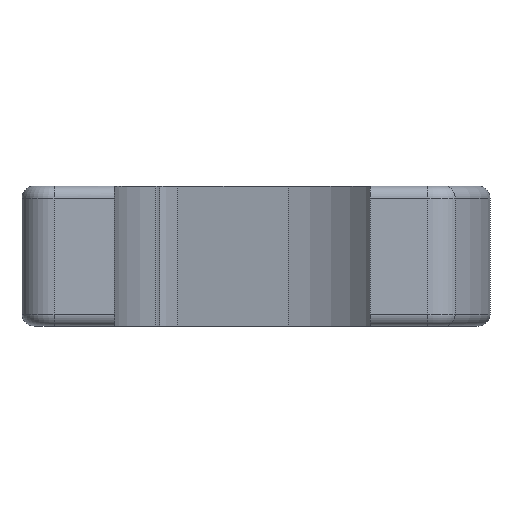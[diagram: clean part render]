
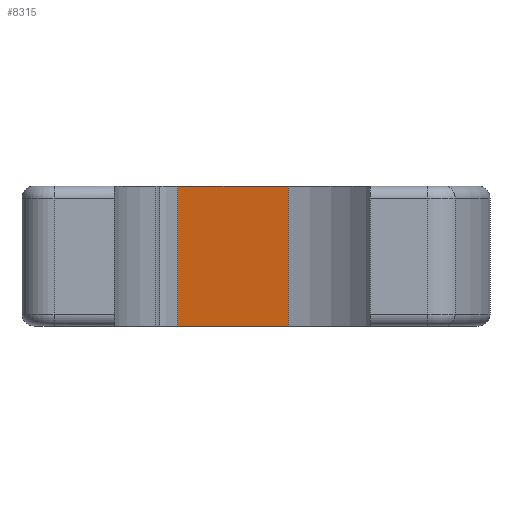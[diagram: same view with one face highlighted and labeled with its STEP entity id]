
A CAD part, front view. The second image highlights one B-rep face of the part: STEP entity #8315.
In plain terms, the highlighted planar face has unit normal (-0.169, -0.986, 0).
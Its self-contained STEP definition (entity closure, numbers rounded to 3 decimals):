
#37 = PLANE ( 'NONE',  #8831 ) ;
#173 = LINE ( 'NONE', #7271, #6984 ) ;
#808 = LINE ( 'NONE', #7925, #8467 ) ;
#1312 = ORIENTED_EDGE ( 'NONE', *, *, #1797, .T. ) ;
#1513 = CARTESIAN_POINT ( 'NONE',  ( -32.065, 28.11, 1.75 ) ) ;
#1684 = CARTESIAN_POINT ( 'NONE',  ( -32.065, 28.11, -1.75 ) ) ;
#1797 = EDGE_CURVE ( 'NONE', #10316, #2175, #5590, .T. ) ;
#2175 = VERTEX_POINT ( 'NONE', #8182 ) ;
#2611 = DIRECTION ( 'NONE',  ( -0.986, 0.169, 0. ) ) ;
#2700 = FACE_OUTER_BOUND ( 'NONE', #3636, .T. ) ;
#2997 = VERTEX_POINT ( 'NONE', #3740 ) ;
#3169 = DIRECTION ( 'NONE',  ( -0.986, 0.169, 0. ) ) ;
#3636 = EDGE_LOOP ( 'NONE', ( #1312, #10926, #9256, #10933 ) ) ;
#3740 = CARTESIAN_POINT ( 'NONE',  ( -34.825, 28.584, -1.75 ) ) ;
#5590 = LINE ( 'NONE', #7540, #7645 ) ;
#6057 = LINE ( 'NONE', #11173, #6785 ) ;
#6101 = VERTEX_POINT ( 'NONE', #1684 ) ;
#6102 = EDGE_CURVE ( 'NONE', #6101, #2997, #808, .T. ) ;
#6199 = DIRECTION ( 'NONE',  ( 0., 0., -1. ) ) ;
#6785 = VECTOR ( 'NONE', #9673, 1000. ) ;
#6984 = VECTOR ( 'NONE', #10813, 1000. ) ;
#7271 = CARTESIAN_POINT ( 'NONE',  ( -34.825, 28.584, -1.75 ) ) ;
#7540 = CARTESIAN_POINT ( 'NONE',  ( -32.065, 28.11, 1.75 ) ) ;
#7645 = VECTOR ( 'NONE', #3169, 1000. ) ;
#7823 = EDGE_CURVE ( 'NONE', #6101, #10316, #6057, .T. ) ;
#7925 = CARTESIAN_POINT ( 'NONE',  ( -32.065, 28.11, -1.75 ) ) ;
#8179 = DIRECTION ( 'NONE',  ( 0.169, 0.986, 0. ) ) ;
#8182 = CARTESIAN_POINT ( 'NONE',  ( -34.825, 28.584, 1.75 ) ) ;
#8315 = ADVANCED_FACE ( 'NONE', ( #2700 ), #37, .F. ) ;
#8467 = VECTOR ( 'NONE', #2611, 1000. ) ;
#8831 = AXIS2_PLACEMENT_3D ( 'NONE', #10671, #8179, #6199 ) ;
#9256 = ORIENTED_EDGE ( 'NONE', *, *, #6102, .F. ) ;
#9673 = DIRECTION ( 'NONE',  ( 0., 0., 1. ) ) ;
#10094 = EDGE_CURVE ( 'NONE', #2997, #2175, #173, .T. ) ;
#10316 = VERTEX_POINT ( 'NONE', #1513 ) ;
#10671 = CARTESIAN_POINT ( 'NONE',  ( -32.065, 28.11, -1.75 ) ) ;
#10813 = DIRECTION ( 'NONE',  ( 0., 0., 1. ) ) ;
#10926 = ORIENTED_EDGE ( 'NONE', *, *, #10094, .F. ) ;
#10933 = ORIENTED_EDGE ( 'NONE', *, *, #7823, .T. ) ;
#11173 = CARTESIAN_POINT ( 'NONE',  ( -32.065, 28.11, -1.75 ) ) ;
